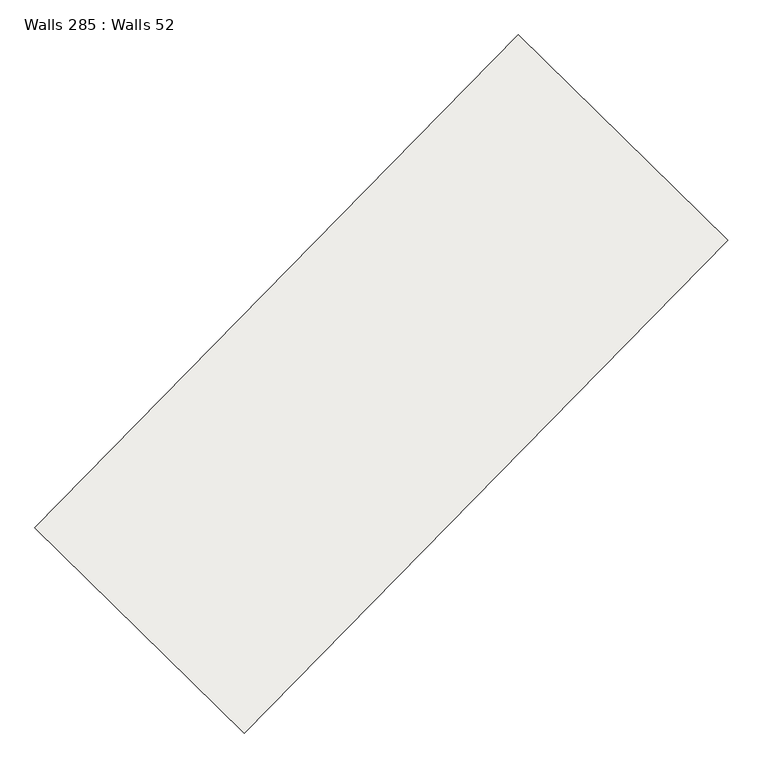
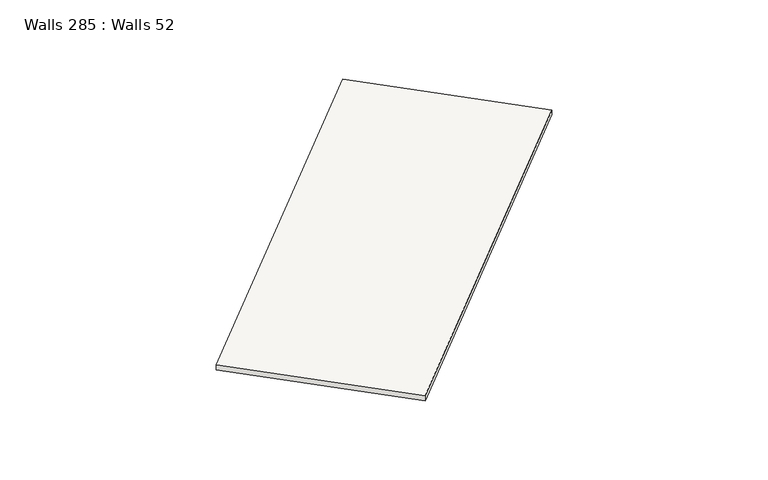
"""IFC4 building model written with IfcOpenShell, lengths in millimetres: slab geometry, Walls 285 : Walls 52."""

from ifc_helpers import new_model, si_unit, frame, origin, place, context, project, spatial, polyline, outline, extrude, source, transform, mapped, element, save


def walls_285_walls_52_4845ea79(model_context):
    return source(origin(), model_context, "Body", "SweptSolid", [
        extrude(outline(polyline([(-50.0, 0.0), (50.0, 0.0), (-40.0, -8699.9999996), (-140.0, -8699.9999996), (-50.0, 0.0)])), frame((-66979.8753878, -227598.7002628, 637070.0), z_axis=(-0.7137361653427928, 0.700414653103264, 0.0), x_axis=(0.0, 0.0, 1.0)), (0.0, 0.0, 1.0), 3699.999995),
    ])


if __name__ == "__main__":
    model = new_model("IFC4")
    model_context = context("Model", 3, world=origin())
    ifc_project = project(units=[si_unit("LENGTHUNIT", "METRE", prefix="MILLI")], contexts=[model_context])
    site = spatial("IfcSite", under=ifc_project)
    building = spatial("IfcBuilding", under=site)
    placement = place(None, origin())
    walls_285_walls_52_shape = walls_285_walls_52_4845ea79(model_context)
    element("IfcSlab", 1, ObjectType="Walls 285 : Walls 52", at=placement, inside=building, context=model_context, shape_type="MappedRepresentation", body=[
        mapped(walls_285_walls_52_shape, transform((0.0, 0.0, 0.0), x_axis=(1.0, 0.0, 0.0), y_axis=(0.0, 1.0, 0.0), z_axis=(0.0, 0.0, 1.0))),
    ])
    save(model, "model.ifc")
